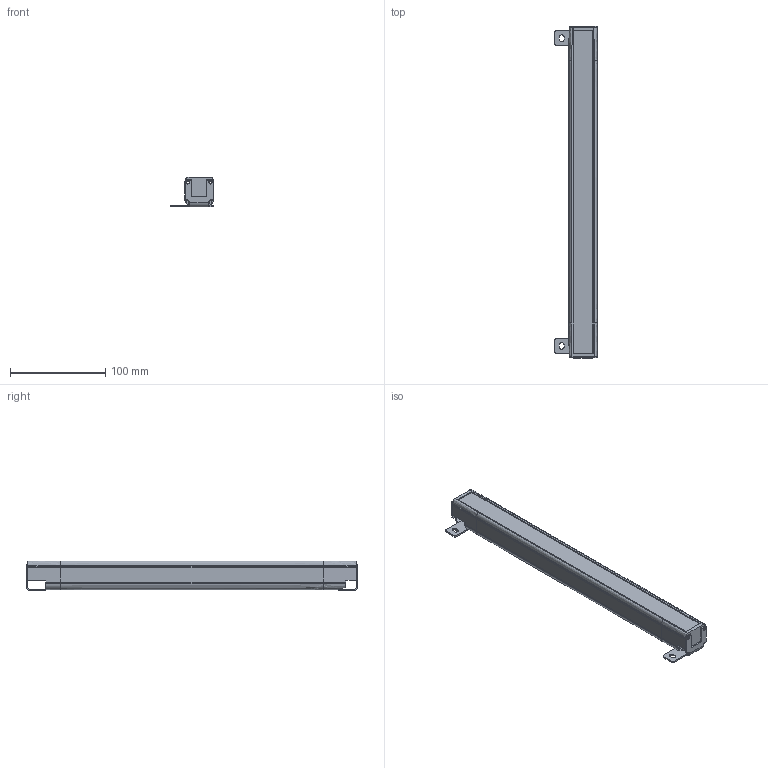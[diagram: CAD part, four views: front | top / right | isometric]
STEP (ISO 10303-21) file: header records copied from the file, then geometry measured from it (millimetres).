
FILE_DESCRIPTION(/* description */ (''),/* implementation_level */ '2;1');
FILE_NAME(/* name */ '3410(30X30).stp',/* time_stamp */ '2020-07-14T11:53:25+08:00',/* author */ (''),/* organization */ (''),/* preprocessor_version */ 'ST-DEVELOPER v16',/* originating_system */ 'SIEMENS PLM Software NX 10.0',/* authorisation */ '');
FILE_SCHEMA (('AP203_CONFIGURATION_CONTROLLED_3D_DESIGN_OF_MECHANICAL_PARTS_AND_ASSEMBLIES_MIM_LF { 1 0 10303 403 2 1 2}'));
Length unit declared in the file: millimetre
Products named in the file (1): Admi58A03253m5ts
Bounding box: 44.89 x 348.4 x 31.39 mm (x, y, z)
Volume: 107541.3 mm3; surface area: 117290.3 mm2
Topology: 6 solids, 6 shells, 441 faces, 1311 edges, 871 vertices
Faces by surface type: plane 256, cylinder 132, cone 32, bspline 14, extrusion 7
Full cylindrical faces by diameter (mm): 1.5 x2, 3.2 x8, 3.5 x8
Entity records: 15674 total; most frequent: CARTESIAN_POINT 3867, ORIENTED_EDGE 2528, DIRECTION 2314, EDGE_CURVE 1264, VECTOR 856, VERTEX_POINT 855, LINE 849, AXIS2_PLACEMENT_3D 729
